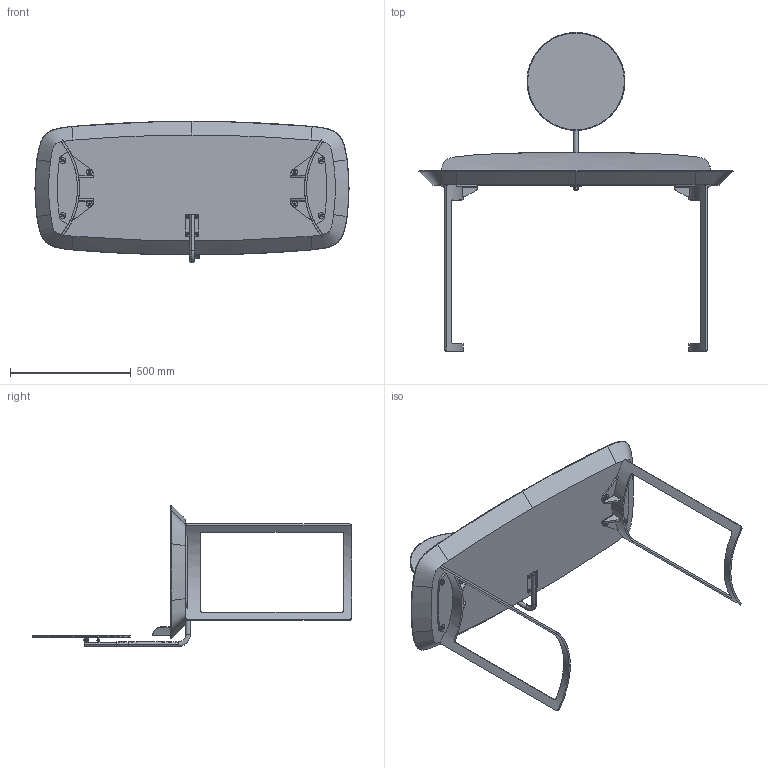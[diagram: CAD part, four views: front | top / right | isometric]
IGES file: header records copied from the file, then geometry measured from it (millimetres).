
Start section: SolidWorks IGES file using analytic representation for surfaces
Global section: file name: Y:\eforma\TECNICO\SOLIDWORKS\E-FORMA\7-SCRIVANIE\ICON\02 parts\IC02W_Icon Vanity_130x59x75h.IGS; native system: SolidWorks 2022; preprocessor: SolidWorks 2022; author: eforma.tech; date: 240806.091312; units: millimetre
Bounding box: 1301.7 x 1323 x 586 mm (x, y, z)
Volume: 37749419.4 mm3; surface area: 2775529.1 mm2
Topology: 34 solids, 34 shells, 893 faces, 2110 edges, 1269 vertices
Faces by surface type: revolution 575, plane 287, bspline 31
